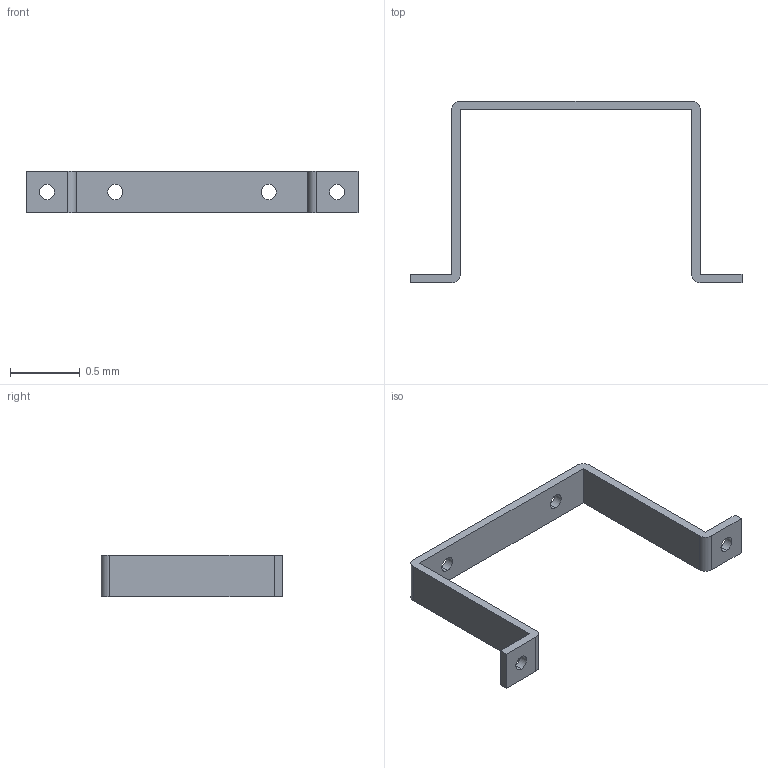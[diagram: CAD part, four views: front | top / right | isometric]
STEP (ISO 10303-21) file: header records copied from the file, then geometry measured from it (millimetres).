
FILE_DESCRIPTION((''),'2;1');
FILE_NAME('BR-010_revD.stp','2008-07-17T18:22:01',(''),(''),'Mechanical Desktop 2007','Mechanical Desktop 2007',', , ');
FILE_SCHEMA(('CONFIG_CONTROL_DESIGN'));
Length unit declared in the file: millimetre
Products named in the file (2): BR-010_REVDA; BR-010_REVD
Assembly tree (1 placements, depth 2):
  BR-010_REVDA
    BR-010_REVD
Bounding box: 2.38 x 1.3 x 0.3 mm (x, y, z)
Volume: 0.1 mm3; surface area: 3.5 mm2
Topology: 1 solids, 1 shells, 26 faces, 72 edges, 48 vertices
Faces by surface type: plane 14, cylinder 12
Entity records: 965 total; most frequent: DIRECTION 152, CARTESIAN_POINT 148, ORIENTED_EDGE 144, EDGE_CURVE 72, AXIS2_PLACEMENT_3D 52, VERTEX_POINT 48, VECTOR 48, LINE 48
